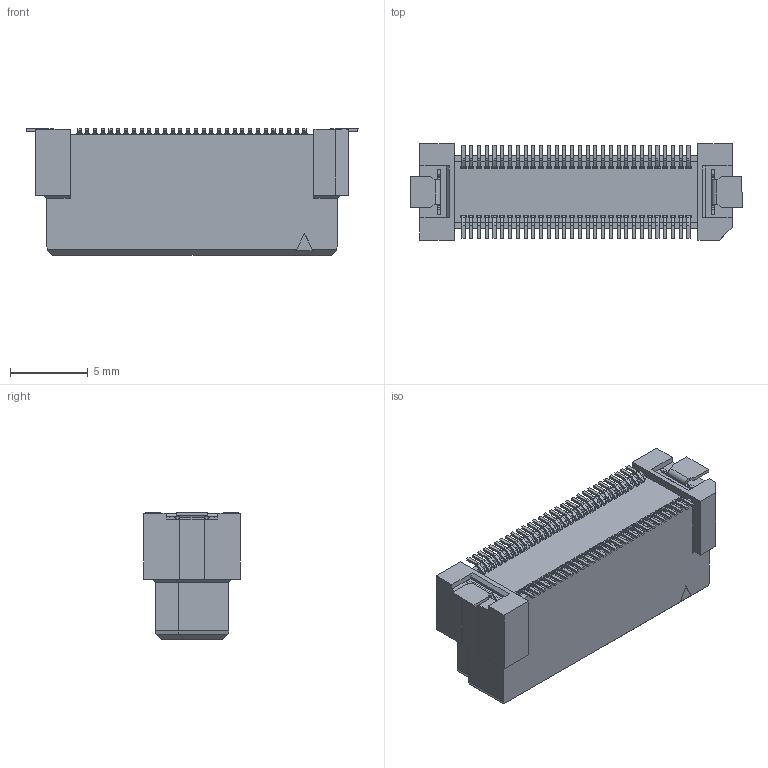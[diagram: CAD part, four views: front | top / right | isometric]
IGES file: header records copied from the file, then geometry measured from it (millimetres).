
Start section: Elysium IGES Interface
Global section: file name: 73HC:\Users\1502\Desktop\DT_webリニューアル\プラグ\ボス無\DT10-060S-10-T.igs; native system: Creo Elements/Direct Modeling 19.0F  14-Feb-2017; preprocessor: Creo Element/Direct IGES_3D V2.2; author: Unknown; organization: Unknown; date: 20170811.100711; units: millimetre
Bounding box: 21.4 x 6.2 x 8.18 mm (x, y, z)
Volume: 651.5 mm3; surface area: 1110.7 mm2
Topology: 1 solids, 1 shells, 2171 faces, 5878 edges, 3832 vertices
Faces by surface type: bspline 2171
